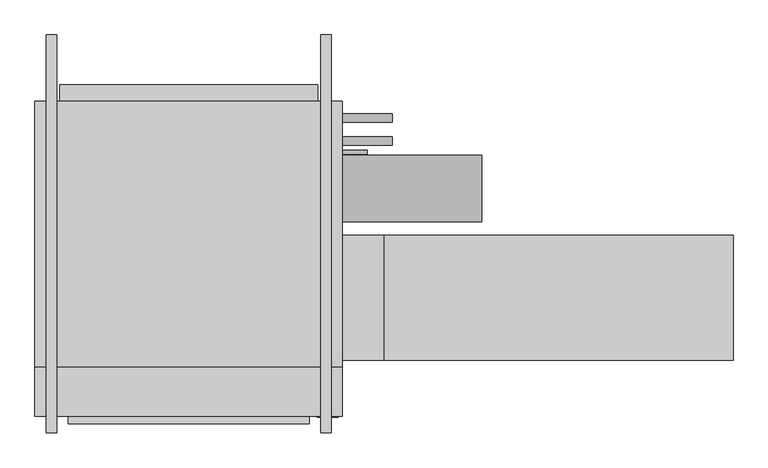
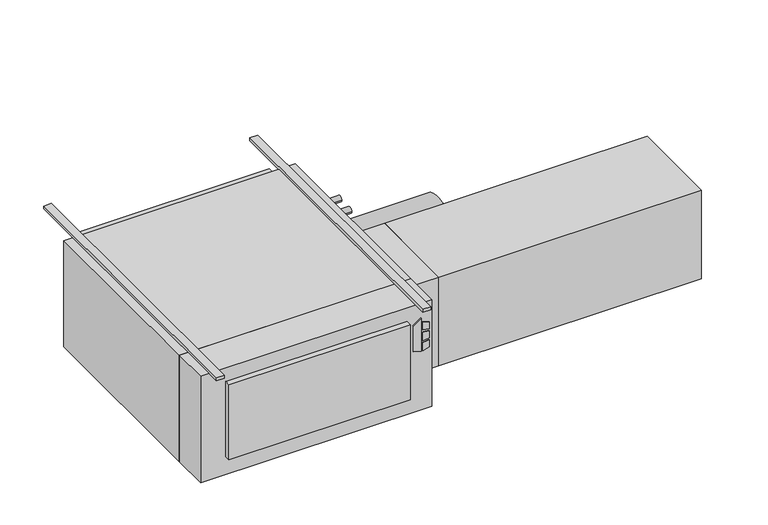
"""IFC4 building model written with IfcOpenShell, lengths in millimetres: proxy geometry."""

from ifc_helpers import new_model, si_unit, point, frame, frame_2d, origin, origin_with_axes, place, context, project, spatial, polyline, circle_curve, trimmed, segment, composite_curve, outline, extrude, source, transform, mapped, element, save


def mechanical_equipment_6548215f(model_context):
    return source(origin(), model_context, "Body", "SweptSolid", [
        extrude(outline(polyline([(-193.2519297, 544.5868862), (-203.2, 576.7602728), (-61.0290756, 576.7602728), (-84.0510817, 544.5868862), (-193.2519297, 544.5868862)])), frame((0.0, -797.052, 0.0), z_axis=(0.0, 1.0, 0.0), x_axis=(0.0, 0.0, 1.0)), (0.0, 0.0, 1.0), 3.175),
        extrude(outline(polyline([(-114.2526443, 583.5186058), (-117.4550368, 609.6), (-88.2261958, 609.6), (-80.1617807, 583.5186058), (-114.2526443, 583.5186058)])), frame((0.0, -797.052, 0.0), z_axis=(0.0, 1.0, 0.0), x_axis=(0.0, 0.0, 1.0)), (0.0, 0.0, 1.0), 3.175),
        extrude(outline(polyline([(-166.1161712, 609.6), (-169.7816721, 583.5186058), (-203.2, 583.5186058), (-194.5657628, 609.6), (-166.1161712, 609.6)])), frame((0.0, -797.052, 0.0), z_axis=(0.0, 1.0, 0.0), x_axis=(0.0, 0.0, 1.0)), (0.0, 0.0, 1.0), 3.175),
        extrude(outline(polyline([(-126.8010097, 609.6), (-124.5191834, 583.5186058), (-160.4567319, 583.5186058), (-157.7154669, 609.6), (-126.8010097, 609.6)])), frame((0.0, -797.052, 0.0), z_axis=(0.0, 1.0, 0.0), x_axis=(0.0, 0.0, 1.0)), (0.0, 0.0, 1.0), 3.175),
        extrude(outline(polyline([(622.3, -793.877), (-317.5, -793.877), (-317.5, -644.525), (622.3, -644.525), (622.3, -793.877)])), frame((0.0, 0.0, -457.2), z_axis=(0.0, 0.0, 1.0), x_axis=(1.0, 0.0, 0.0)), (0.0, 0.0, 1.0), 457.2),
        extrude(outline(polyline([(520.7, -816.229), (-215.9, -816.229), (-215.9, -793.877), (520.7, -793.877), (520.7, -816.229)])), frame((0.0, 0.0, -381.0), z_axis=(0.0, 0.0, 1.0), x_axis=(1.0, 0.0, 0.0)), (0.0, 0.0, 1.0), 323.85),
        extrude(outline(polyline([(1816.1, -241.3), (1816.1, -622.3), (749.3, -622.3), (749.3, -241.3), (1816.1, -241.3)])), frame((0.0, 0.0, -431.8), z_axis=(0.0, 0.0, 1.0), x_axis=(1.0, 0.0, 0.0)), (0.0, 0.0, 1.0), 381.0),
        extrude(outline(polyline([(749.3, -241.3), (749.3, -622.3), (622.3, -622.3), (622.3, -241.3), (749.3, -241.3)])), frame((0.0, 0.0, -431.8), z_axis=(0.0, 0.0, 1.0), x_axis=(1.0, 0.0, 0.0)), (0.0, 0.0, 1.0), 381.0),
        extrude(outline(composite_curve([segment(trimmed(circle_curve(frame_2d((117.475, -171.45)), 12.7), [point((130.175, -171.45))], [point((104.775, -171.45))], False, "CARTESIAN"), True, "CONTINUOUS"), segment(trimmed(circle_curve(frame_2d((117.475, -171.45)), 12.7), [point((104.775, -171.45))], [point((130.175, -171.45))], False, "CARTESIAN"), True, "CONTINUOUS")], self_intersect=False)), frame((622.3, 0.0, 0.0), z_axis=(1.0, 0.0, 0.0), x_axis=(0.0, 1.0, 0.0)), (0.0, 0.0, 1.0), 152.4),
        extrude(outline(composite_curve([segment(trimmed(circle_curve(frame_2d((47.625, -177.8)), 12.7), [point((60.325, -177.8))], [point((34.925, -177.8))], False, "CARTESIAN"), True, "CONTINUOUS"), segment(trimmed(circle_curve(frame_2d((47.625, -177.8)), 12.7), [point((34.925, -177.8))], [point((60.325, -177.8))], False, "CARTESIAN"), True, "CONTINUOUS")], self_intersect=False)), frame((622.3, 0.0, 0.0), z_axis=(1.0, 0.0, 0.0), x_axis=(0.0, 1.0, 0.0)), (0.0, 0.0, 1.0), 152.4),
        extrude(outline(composite_curve([segment(trimmed(circle_curve(frame_2d((-98.4896516, -228.6360165)), 101.6), [point((3.1103484, -228.6360165))], [point((-200.0896516, -228.6360165))], False, "CARTESIAN"), True, "CONTINUOUS"), segment(trimmed(circle_curve(frame_2d((-98.4896516, -228.6360165)), 101.6), [point((-200.0896516, -228.6360165))], [point((3.1103484, -228.6360165))], False, "CARTESIAN"), True, "CONTINUOUS")], self_intersect=False)), frame((622.3, 0.0, 0.0), z_axis=(1.0, 0.0, 0.0), x_axis=(0.0, 1.0, 0.0)), (0.0, 0.0, 1.0), 425.45),
        extrude(outline(composite_curve([segment(trimmed(circle_curve(frame_2d((12.7, -409.575)), 6.35), [point((19.05, -409.575))], [point((6.35, -409.575))], False, "CARTESIAN"), True, "CONTINUOUS"), segment(trimmed(circle_curve(frame_2d((12.7, -409.575)), 6.35), [point((6.35, -409.575))], [point((19.05, -409.575))], False, "CARTESIAN"), True, "CONTINUOUS")], self_intersect=False)), frame((622.3, 0.0, 0.0), z_axis=(1.0, 0.0, 0.0), x_axis=(0.0, 1.0, 0.0)), (0.0, 0.0, 1.0), 76.2),
        extrude(outline(polyline([(622.3, 168.275), (622.3, -644.525), (-317.5, -644.525), (-317.5, 168.275), (622.3, 168.275)])), frame((0.0, 0.0, -457.2), z_axis=(0.0, 0.0, 1.0), x_axis=(1.0, 0.0, 0.0)), (0.0, 0.0, 1.0), 457.2),
        extrude(outline(polyline([(-241.3, 219.075), (546.1, 219.075), (546.1, 168.275), (-241.3, 168.275), (-241.3, 219.075)])), frame((0.0, 0.0, -381.0), z_axis=(0.0, 0.0, 1.0), x_axis=(1.0, 0.0, 0.0)), (0.0, 0.0, 1.0), 355.6),
        extrude(outline(polyline([(-250.825, 371.475), (-250.825, -844.677), (-282.575, -844.677), (-282.575, 371.475), (-250.825, 371.475)])), origin_with_axes(), (0.0, 0.0, 1.0), 12.7),
        extrude(outline(polyline([(587.375, 371.475), (587.375, -844.677), (555.625, -844.677), (555.625, 371.475), (587.375, 371.475)])), origin_with_axes(), (0.0, 0.0, 1.0), 12.7),
    ])


if __name__ == "__main__":
    model = new_model("IFC4")
    model_context = context("Model", 3, world=origin())
    ifc_project = project(units=[si_unit("LENGTHUNIT", "METRE", prefix="MILLI")], contexts=[model_context])
    site = spatial("IfcSite", under=ifc_project)
    building = spatial("IfcBuilding", under=site)
    placement = place(None, origin())
    mechanical_equipment_shape = mechanical_equipment_6548215f(model_context)
    element("IfcBuildingElementProxy", 1, Name="High_Capacity_Horizontal_Cabinet_Fan_Coil_Unit_-_HTY_-_IEC_-_2 Pipe, Elec Heat_RH Side_2022 : Size 12 - 277v/60Hz/1Ph - 8/0 Coil 9.0kW - 8\" AirIn", ObjectType="High_Capacity_Horizontal_Cabinet_Fan_Coil_Unit_-_HTY_-_IEC_-_2 Pipe, Elec Heat_RH Side_2022 : Size 12 - 277v/60Hz/1Ph - 8/0 Coil 9.0kW - 8\" AirIn", at=placement, inside=building, context=model_context, shape_type="MappedRepresentation", body=[
        mapped(mechanical_equipment_shape, transform((0.0, 0.0, 0.0), x_axis=(1.0, 0.0, 0.0), y_axis=(0.0, 1.0, 0.0), z_axis=(0.0, 0.0, 1.0))),
    ])
    save(model, "model.ifc")
